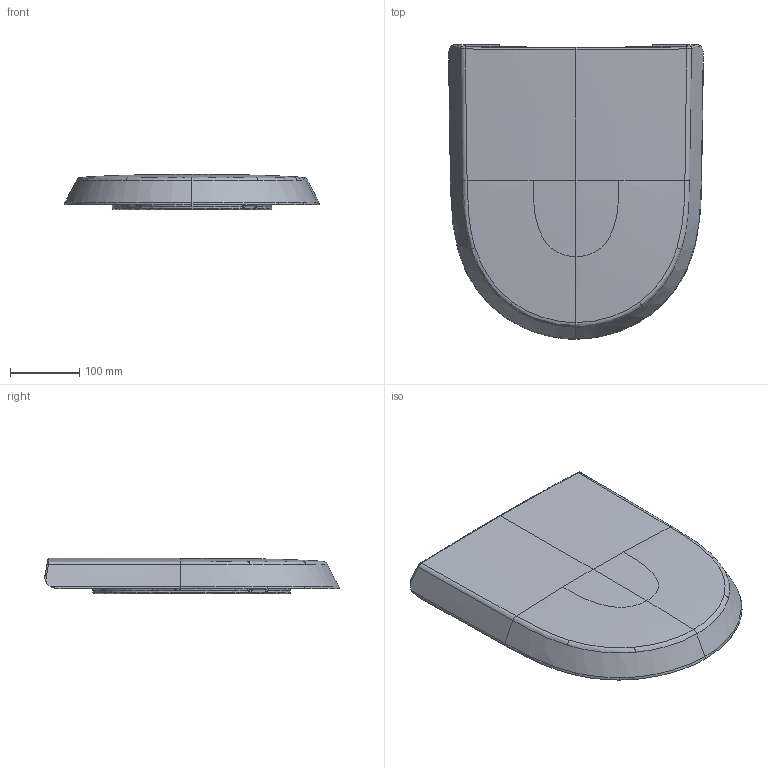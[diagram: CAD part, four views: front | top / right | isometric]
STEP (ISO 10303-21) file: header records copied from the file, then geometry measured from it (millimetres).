
FILE_DESCRIPTION(/* description */ (''),/* implementation_level */ '2;1');
FILE_NAME(/* name */ '0027490000',/* time_stamp */ '2022-10-27T08:21:00+02:00',/* author */ (''),/* organization */ (''),/* preprocessor_version */ 'ST-DEVELOPER v15',/* originating_system */ '',/* authorisation */ '');
FILE_SCHEMA (('AUTOMOTIVE_DESIGN'));
Length unit declared in the file: millimetre
Products named in the file (1): Document
Bounding box: 368.21 x 425.66 x 51 mm (x, y, z)
Volume: 585339.9 mm3; surface area: 530798.4 mm2
Topology: 1 solids, 2 shells, 530 faces, 1314 edges, 782 vertices
Faces by surface type: bspline 506, plane 24
Entity records: 34692 total; most frequent: CARTESIAN_POINT 26528, ORIENTED_EDGE 2620, EDGE_CURVE 1314, B_SPLINE_CURVE_WITH_KNOTS 1247, VERTEX_POINT 782, ADVANCED_FACE 530, FACE_OUTER_BOUND 530, EDGE_LOOP 530
